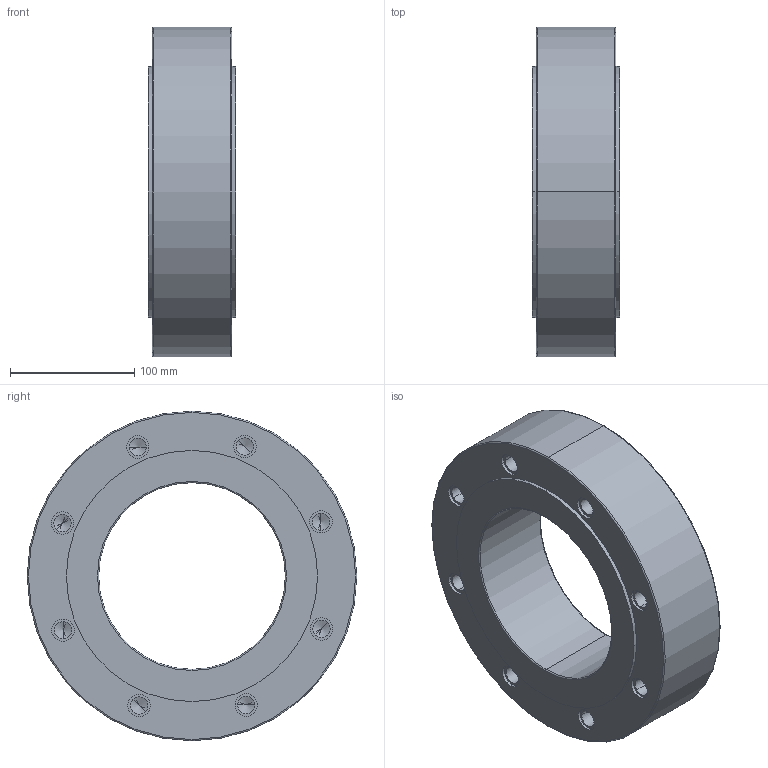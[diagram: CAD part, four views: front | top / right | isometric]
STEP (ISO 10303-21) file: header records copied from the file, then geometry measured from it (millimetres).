
FILE_DESCRIPTION (( 'STEP AP203' ), '1' );
FILE_NAME ('W8_PN06_DN150.STEP', '2012-10-31T07:10:03', ( 'luca.saino' ), ( 'Hewlett-Packard Company' ), 'SwSTEP 2.0', 'SolidWorks 2012', '' );
FILE_SCHEMA (( 'CONFIG_CONTROL_DESIGN' ));
Length unit declared in the file: millimetre
Products named in the file (1): W8_PN06_DN150
Bounding box: 70 x 265 x 265 mm (x, y, z)
Volume: 2426963 mm3; surface area: 179438.6 mm2
Topology: 1 solids, 1 shells, 132 faces, 296 edges, 168 vertices
Faces by surface type: cylinder 72, cone 32, plane 20, torus 8
Entity records: 3557 total; most frequent: DIRECTION 690, CARTESIAN_POINT 565, ORIENTED_EDGE 528, AXIS2_PLACEMENT_3D 293, EDGE_CURVE 264, VERTEX_POINT 168, EDGE_LOOP 168, CIRCLE 160
